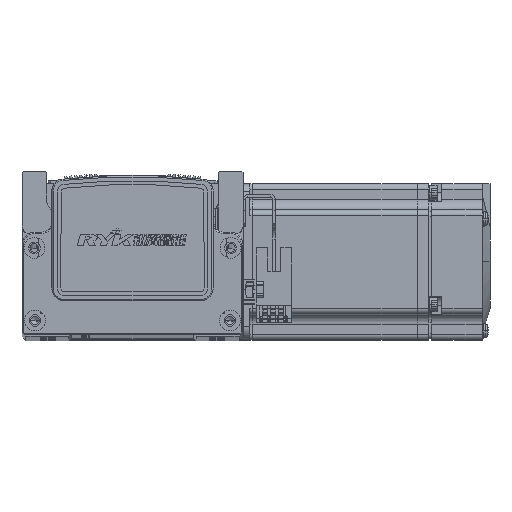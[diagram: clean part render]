
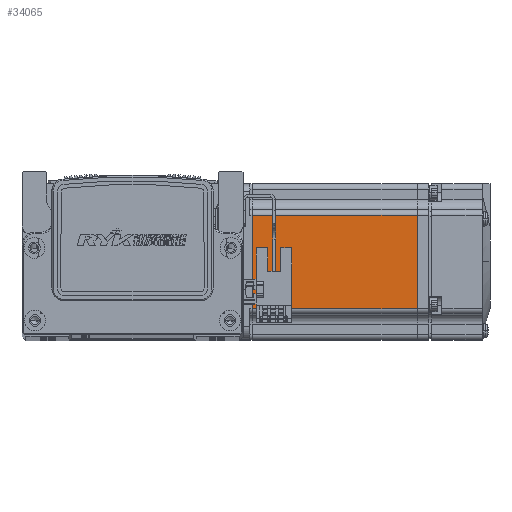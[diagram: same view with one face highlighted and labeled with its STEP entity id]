
A CAD part, top view. The second image highlights one B-rep face of the part: STEP entity #34065.
In plain terms, the highlighted planar face has unit normal (0, 0, 1) as drawn and (0, 0, -1) by its records, which use the part's own axes.
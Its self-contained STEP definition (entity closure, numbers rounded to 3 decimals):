
#4839 = ORIENTED_EDGE ( 'NONE', *, *, #8983, .T. ) ;
#4840 = ORIENTED_EDGE ( 'NONE', *, *, #8908, .T. ) ;
#4856 = ORIENTED_EDGE ( 'NONE', *, *, #8979, .T. ) ;
#4868 = ORIENTED_EDGE ( 'NONE', *, *, #8936, .T. ) ;
#8908 = EDGE_CURVE ( 'NONE', #22736, #22777, #66357, .T. ) ;
#8936 = EDGE_CURVE ( 'NONE', #22777, #22761, #66447, .T. ) ;
#8979 = EDGE_CURVE ( 'NONE', #22761, #22701, #66431, .T. ) ;
#8983 = EDGE_CURVE ( 'NONE', #22701, #22736, #66514, .T. ) ;
#19284 = FACE_OUTER_BOUND ( 'NONE', #62326, .T. ) ;
#22701 = VERTEX_POINT ( 'NONE', #68170 ) ;
#22736 = VERTEX_POINT ( 'NONE', #68145 ) ;
#22761 = VERTEX_POINT ( 'NONE', #68162 ) ;
#22777 = VERTEX_POINT ( 'NONE', #68200 ) ;
#32168 = AXIS2_PLACEMENT_3D ( 'NONE', #39912, #39875, #39868 ) ;
#34065 = ADVANCED_FACE ( 'NONE', ( #19284 ), #39889, .T. ) ;
#39868 = DIRECTION ( 'NONE',  ( -1., 0., 0. ) ) ;
#39875 = DIRECTION ( 'NONE',  ( 0., 0., -1. ) ) ;
#39889 = PLANE ( 'NONE',  #32168 ) ;
#39912 = CARTESIAN_POINT ( 'NONE',  ( -6.5, 25., -30. ) ) ;
#46069 = CARTESIAN_POINT ( 'NONE',  ( -6.5, -18., -30. ) ) ;
#46110 = DIRECTION ( 'NONE',  ( -1., 0., 0. ) ) ;
#46151 = DIRECTION ( 'NONE',  ( 0., 1., 0. ) ) ;
#46186 = CARTESIAN_POINT ( 'NONE',  ( -70.95, 25., -30. ) ) ;
#46194 = CARTESIAN_POINT ( 'NONE',  ( -7.75, 25., -30. ) ) ;
#46203 = CARTESIAN_POINT ( 'NONE',  ( -6.5, 18., -30. ) ) ;
#46220 = DIRECTION ( 'NONE',  ( 1., 0., 0. ) ) ;
#46248 = DIRECTION ( 'NONE',  ( 0., -1., 0. ) ) ;
#62326 = EDGE_LOOP ( 'NONE', ( #4839, #4840, #4868, #4856 ) ) ;
#66357 = LINE ( 'NONE', #46069, #66386 ) ;
#66386 = VECTOR ( 'NONE', #46110, 1000. ) ;
#66420 = VECTOR ( 'NONE', #46151, 1000. ) ;
#66431 = LINE ( 'NONE', #46203, #66432 ) ;
#66432 = VECTOR ( 'NONE', #46220, 1000. ) ;
#66447 = LINE ( 'NONE', #46186, #66420 ) ;
#66477 = VECTOR ( 'NONE', #46248, 1000. ) ;
#66514 = LINE ( 'NONE', #46194, #66477 ) ;
#68145 = CARTESIAN_POINT ( 'NONE',  ( -7.75, -18., -30. ) ) ;
#68162 = CARTESIAN_POINT ( 'NONE',  ( -70.95, 18., -30. ) ) ;
#68170 = CARTESIAN_POINT ( 'NONE',  ( -7.75, 18., -30. ) ) ;
#68200 = CARTESIAN_POINT ( 'NONE',  ( -70.95, -18., -30. ) ) ;
